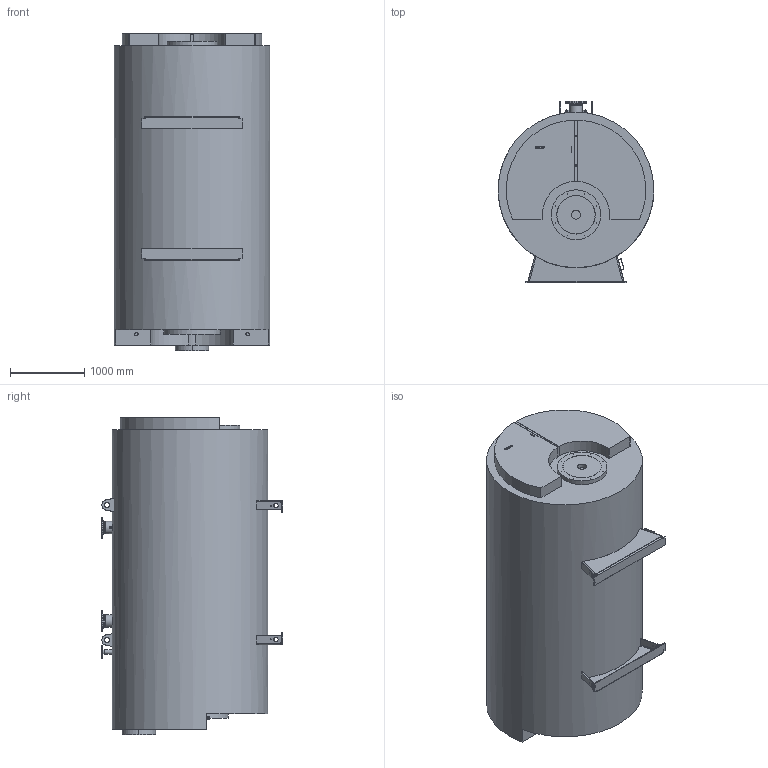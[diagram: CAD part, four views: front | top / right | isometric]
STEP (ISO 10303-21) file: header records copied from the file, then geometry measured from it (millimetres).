
FILE_DESCRIPTION(('TFLEX Exchange Step'),'2;1');
FILE_NAME('M62D022_7550657_H001.stp', '2024-08-09T11:40:40+03:00',('kort'),('Unknown organisation'),'TFLEX Exchange 2024.2','T-FLEX CAD','Unknown authorisation');
FILE_SCHEMA( ('AP242_MANAGED_MODEL_BASED_3D_ENGINEERING_MIM_LF {1 0 10303 442 1 1 4 }') );
Length unit declared in the file: millimetre
Products named in the file (1): 7550657_Grundkessel M62D022 RD_H001
Bounding box: 2094 x 2440 x 4264.2 mm (x, y, z)
Volume: 13835403907.3 mm3; surface area: 37859509.4 mm2
Topology: 27 solids, 35 shells, 631 faces, 1585 edges, 1078 vertices
Faces by surface type: plane 347, cylinder 168, bspline 98, torus 10, cone 8
Full cylindrical faces by diameter (mm): 2.2 x4, 3.2 x4, 3.3 x4, 4 x4, 6.5 x4, 10.3 x8, 12 x2, 13 x6, 18 x6, 18.63 x2, 22 x16, 27 x2, 41.3 x2, 47.803 x2, 48.3 x2, 50 x1, 54.5 x1, 60 x5, 60.3 x1, 70 x2, 102 x1, 120 x1, 152.3 x2, 159.3 x2, 165 x1, 168.3 x2, 212 x2, 215 x2, 285 x2, 670 x1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
Entity records: 28273 total; most frequent: CARTESIAN_POINT 12825, ORIENTED_EDGE 3170, DIRECTION 2851, EDGE_CURVE 1585, VERTEX_POINT 1078, AXIS2_PLACEMENT_3D 977, VECTOR 897, LINE 897
